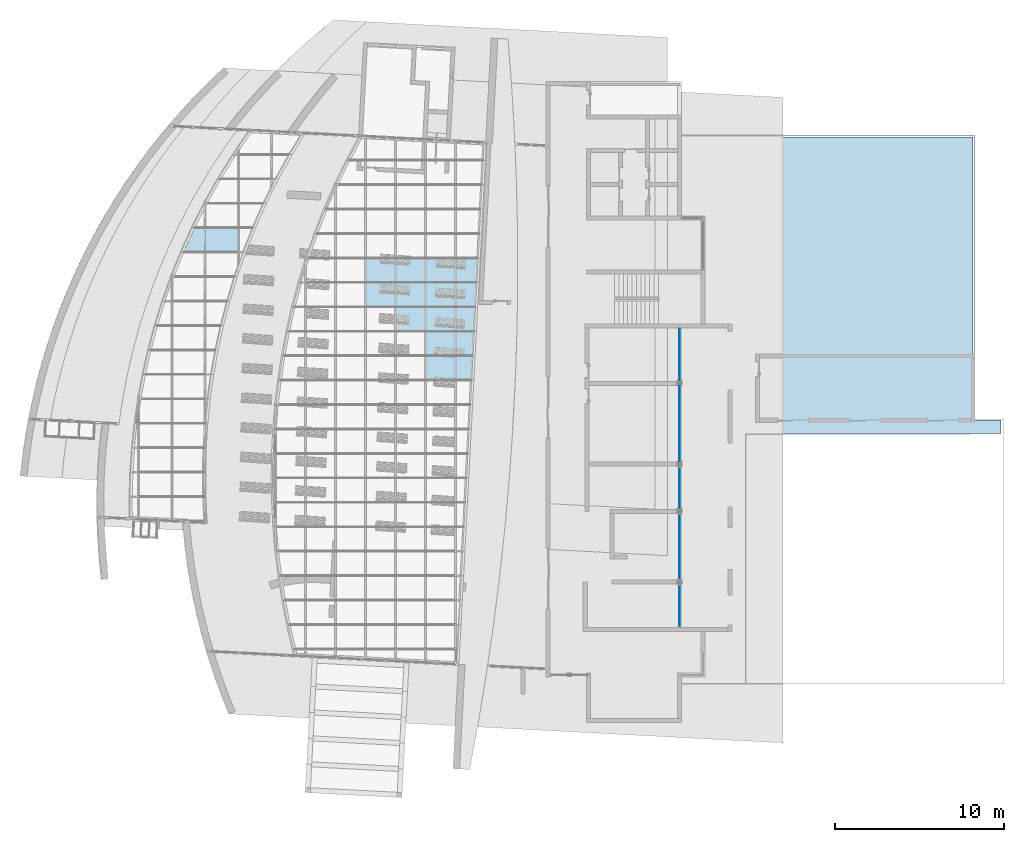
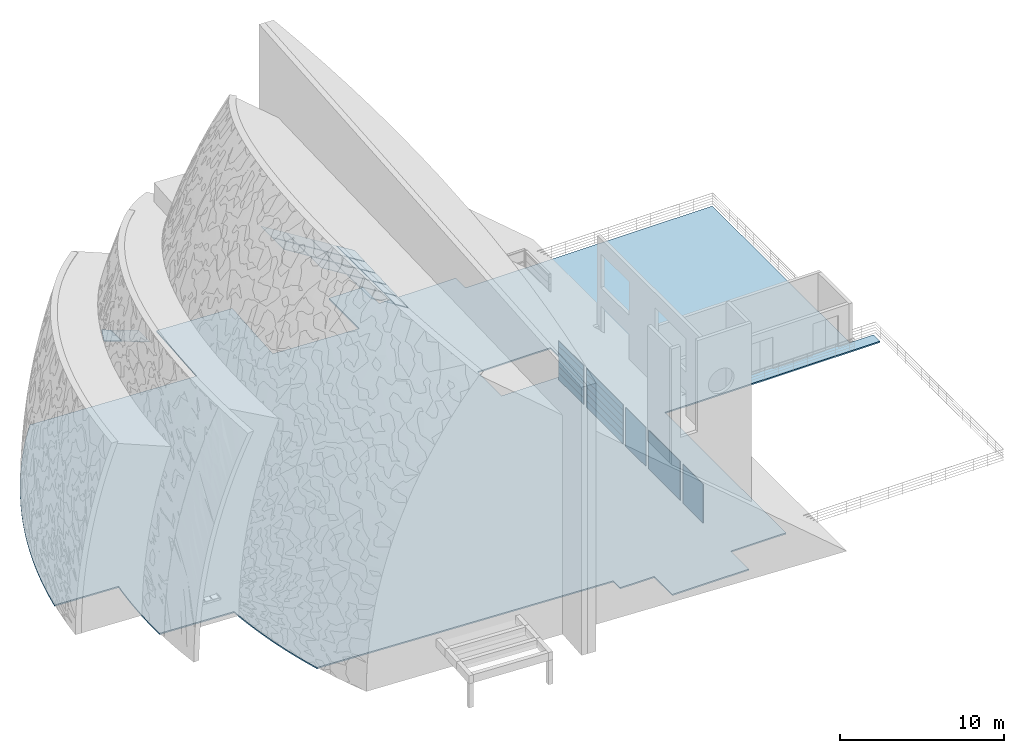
# One storey, part 41 of 82: 32 plates, 1 slab, 1 opening, 7 elements without a shape of their own.
"""IFC2X3 building model written with IfcOpenShell, lengths in millimetres."""

from ifc_helpers import new_model, entity, si_unit, converted_unit, derived_unit, direction, frame, frame_2d, origin, origin_2d_with_axis, place, context, subcontext, project, spatial, polyline, circle_curve, parameter, trimmed, segment, composite_curve, rectangle, outline, extrude, source, transform, mapped, material, layer, layer_set, layer_usage, type_object, type_shapes, element, aggregate, save


model = new_model("IFC2X3")

# Units and contexts
model_context = context("Model", 3, precision=0.01, world=origin(), true_north=direction((6.12303176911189e-17, 1.0)))
body_context = subcontext(model_context, "Body", "Model", "MODEL_VIEW")
ifc_project = project(units=[si_unit("LENGTHUNIT", "METRE", prefix="MILLI"), si_unit("AREAUNIT", "SQUARE_METRE"), si_unit("VOLUMEUNIT", "CUBIC_METRE"), converted_unit("PLANEANGLEUNIT", "DEGREE", entity("IfcRatioMeasure", 0.0174532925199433), si_unit("PLANEANGLEUNIT", "RADIAN"), dimensions=[0, 0, 0, 0, 0, 0, 0]), si_unit("MASSUNIT", "GRAM", prefix="KILO"), derived_unit("MASSDENSITYUNIT", [(si_unit("MASSUNIT", "GRAM", prefix="KILO"), 1), (si_unit("LENGTHUNIT", "METRE"), -3)]), si_unit("TIMEUNIT", "SECOND"), si_unit("FREQUENCYUNIT", "HERTZ"), si_unit("THERMODYNAMICTEMPERATUREUNIT", "DEGREE_CELSIUS"), derived_unit("THERMALTRANSMITTANCEUNIT", [(si_unit("MASSUNIT", "GRAM", prefix="KILO"), 1), (si_unit("THERMODYNAMICTEMPERATUREUNIT", "KELVIN"), -1), (si_unit("TIMEUNIT", "SECOND"), -3)]), derived_unit("VOLUMETRICFLOWRATEUNIT", [(si_unit("LENGTHUNIT", "METRE"), 3), (si_unit("TIMEUNIT", "SECOND"), -1)]), si_unit("ELECTRICCURRENTUNIT", "AMPERE"), si_unit("ELECTRICVOLTAGEUNIT", "VOLT"), si_unit("POWERUNIT", "WATT"), si_unit("FORCEUNIT", "NEWTON", prefix="KILO"), si_unit("ILLUMINANCEUNIT", "LUX"), si_unit("LUMINOUSFLUXUNIT", "LUMEN"), si_unit("LUMINOUSINTENSITYUNIT", "CANDELA"), derived_unit("USERDEFINED", [(si_unit("MASSUNIT", "GRAM", prefix="KILO"), -1), (si_unit("LENGTHUNIT", "METRE"), -2), (si_unit("TIMEUNIT", "SECOND"), 3), (si_unit("LUMINOUSFLUXUNIT", "LUMEN"), 1)]), derived_unit("LINEARVELOCITYUNIT", [(si_unit("LENGTHUNIT", "METRE"), 1), (si_unit("TIMEUNIT", "SECOND"), -1)]), si_unit("PRESSUREUNIT", "PASCAL"), derived_unit("USERDEFINED", [(si_unit("LENGTHUNIT", "METRE"), -2), (si_unit("MASSUNIT", "GRAM", prefix="KILO"), 1), (si_unit("TIMEUNIT", "SECOND"), -2)])], contexts=[model_context])

# Site, building, storey
site_placement = place(None, origin())
site = spatial("IfcSite", under=ifc_project, at=site_placement, Name="表面", CompositionType="ELEMENT")
building_placement = place(site_placement, origin())
building = spatial("IfcBuilding", under=site, at=building_placement, CompositionType="ELEMENT")
storey_placement = place(building_placement, origin())
storey = spatial("IfcBuildingStorey", under=building, at=storey_placement, Name="1F", CompositionType="ELEMENT", Elevation=0.0)

# Curtain wall, plates
curtain_wall_type_1 = type_object("IfcCurtainWallType", Name="幕墙系统:1450 x 2100mm", PredefinedType="NOTDEFINED")
curtain_wall_1_placement = place(storey_placement, origin())
curtain_wall_1 = element("IfcCurtainWall", 1, at=curtain_wall_1_placement, inside=storey, type_object=curtain_wall_type_1, Name="幕墙系统:1450 x 2100mm", ObjectType="幕墙系统:1450 x 2100mm")
ifc_material_1 = material(Name="<Unnamed>")
ifc_layer_1 = layer(ifc_material_1, 30.0)
ifc_layer_set_1 = layer_set([ifc_layer_1], Name="幕墙系统:1450 x 2100mm")
ifc_layer_usage_1 = layer_usage(ifc_layer_set_1, "AXIS3", "POSITIVE", 0.0)
plate_type_1 = type_object("IfcPlateType", Name="玻璃", PredefinedType="CURTAIN_PANEL", material=ifc_layer_set_1)
shared_shape_1 = source(origin(), body_context, "Body", "SweptSolid", [
    extrude(rectangle(XDim=30.0, YDim=1400.0, at=frame_2d((0.0, 3.97903932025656e-13), x_axis=(1.0, 0.0))), frame((0.0, 0.0, 0.0), z_axis=(0.0, 0.0, 1.0), x_axis=(0.0, 1.0, 0.0)), (0.0, 0.0, 1.0), 2050.0),
])
type_shapes(plate_type_1, [shared_shape_1])
plate_1_placement = place(curtain_wall_1_placement, frame((-19940.3008154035, -5413.90315351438, 12156.2797786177), z_axis=(-0.848048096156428, 0.0, 0.529919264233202), x_axis=(0.0, -1.0, 0.0)))
plate_1 = element("IfcPlate", 2, at=plate_1_placement, type_object=plate_type_1, material=ifc_layer_usage_1, Name="系统嵌板:玻璃", ObjectType="玻璃", context=body_context, shape_type="MappedRepresentation", body=[
    mapped(shared_shape_1, transform((0.0, 0.0, 0.0), scale=1.0)),
])
ifc_layer_usage_2 = layer_usage(ifc_layer_set_1, "AXIS3", "POSITIVE", 0.0)
plate_2_placement = place(curtain_wall_1_placement, frame((-19940.3008154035, -6863.90315351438, 12156.2797786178), z_axis=(-0.848048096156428, 0.0, 0.529919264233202), x_axis=(0.0, -1.0, 0.0)))
plate_2 = element("IfcPlate", 3, at=plate_2_placement, type_object=plate_type_1, material=ifc_layer_usage_2, Name="系统嵌板:玻璃", ObjectType="玻璃", context=body_context, shape_type="MappedRepresentation", body=[
    mapped(shared_shape_1, transform((0.0, 0.0, 0.0), scale=1.0)),
])
ifc_layer_usage_3 = layer_usage(ifc_layer_set_1, "AXIS3", "POSITIVE", 0.0)
plate_3_placement = place(curtain_wall_1_placement, frame((-19940.3008154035, -8313.90315351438, 12156.2797786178), z_axis=(-0.848048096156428, 0.0, 0.529919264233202), x_axis=(0.0, -1.0, 0.0)))
plate_3 = element("IfcPlate", 4, at=plate_3_placement, type_object=plate_type_1, material=ifc_layer_usage_3, Name="系统嵌板:玻璃", ObjectType="玻璃", context=body_context, shape_type="MappedRepresentation", body=[
    mapped(shared_shape_1, transform((0.0, 0.0, 0.0), scale=1.0)),
])
ifc_layer_usage_4 = layer_usage(ifc_layer_set_1, "AXIS3", "POSITIVE", 0.0)
plate_4_placement = place(curtain_wall_1_placement, frame((-19940.3008154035, -9763.90315351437, 12156.2797786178), z_axis=(-0.848048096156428, 0.0, 0.529919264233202), x_axis=(0.0, -1.0, 0.0)))
plate_4 = element("IfcPlate", 5, at=plate_4_placement, type_object=plate_type_1, material=ifc_layer_usage_4, Name="系统嵌板:玻璃", ObjectType="玻璃", context=body_context, shape_type="MappedRepresentation", body=[
    mapped(shared_shape_1, transform((0.0, 0.0, 0.0), scale=1.0)),
])
ifc_layer_usage_5 = layer_usage(ifc_layer_set_1, "AXIS3", "POSITIVE", 0.0)
plate_5_placement = place(curtain_wall_1_placement, frame((-19940.3008154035, -11213.9031535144, 12156.2797786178), z_axis=(-0.848048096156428, 0.0, 0.529919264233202), x_axis=(0.0, -1.0, 0.0)))
plate_5 = element("IfcPlate", 6, at=plate_5_placement, type_object=plate_type_1, material=ifc_layer_usage_5, Name="系统嵌板:玻璃", ObjectType="玻璃", context=body_context, shape_type="MappedRepresentation", body=[
    mapped(shared_shape_1, transform((0.0, 0.0, 0.0), scale=1.0)),
])
ifc_layer_usage_6 = layer_usage(ifc_layer_set_1, "AXIS3", "POSITIVE", 0.0)
plate_6_placement = place(curtain_wall_1_placement, frame((-21721.201817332, -5413.90315351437, 13269.1102335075), z_axis=(-0.848048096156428, 0.0, 0.529919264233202), x_axis=(0.0, -1.0, 0.0)))
plate_6 = element("IfcPlate", 7, at=plate_6_placement, type_object=plate_type_1, material=ifc_layer_usage_6, Name="系统嵌板:玻璃", ObjectType="玻璃", context=body_context, shape_type="MappedRepresentation", body=[
    mapped(shared_shape_1, transform((0.0, 0.0, 0.0), scale=1.0)),
])
ifc_layer_usage_7 = layer_usage(ifc_layer_set_1, "AXIS3", "POSITIVE", 0.0)
plate_7_placement = place(curtain_wall_1_placement, frame((-21721.201817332, -6863.90315351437, 13269.1102335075), z_axis=(-0.848048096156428, 0.0, 0.529919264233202), x_axis=(0.0, -1.0, 0.0)))
plate_7 = element("IfcPlate", 8, at=plate_7_placement, type_object=plate_type_1, material=ifc_layer_usage_7, Name="系统嵌板:玻璃", ObjectType="玻璃", context=body_context, shape_type="MappedRepresentation", body=[
    mapped(shared_shape_1, transform((0.0, 0.0, 0.0), scale=1.0)),
])
ifc_layer_usage_8 = layer_usage(ifc_layer_set_1, "AXIS3", "POSITIVE", 0.0)
plate_8_placement = place(curtain_wall_1_placement, frame((-21721.201817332, -8313.90315351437, 13269.1102335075), z_axis=(-0.848048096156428, 0.0, 0.529919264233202), x_axis=(0.0, -1.0, 0.0)))
plate_8 = element("IfcPlate", 9, at=plate_8_placement, type_object=plate_type_1, material=ifc_layer_usage_8, Name="系统嵌板:玻璃", ObjectType="玻璃", context=body_context, shape_type="MappedRepresentation", body=[
    mapped(shared_shape_1, transform((0.0, 0.0, 0.0), scale=1.0)),
])
ifc_layer_usage_9 = layer_usage(ifc_layer_set_1, "AXIS3", "POSITIVE", 0.0)
plate_9_placement = place(curtain_wall_1_placement, frame((-23502.1028192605, -5413.90315351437, 14381.9406883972), z_axis=(-0.848048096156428, 0.0, 0.529919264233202), x_axis=(0.0, -1.0, 0.0)))
plate_9 = element("IfcPlate", 10, at=plate_9_placement, type_object=plate_type_1, material=ifc_layer_usage_9, Name="系统嵌板:玻璃", ObjectType="玻璃", context=body_context, shape_type="MappedRepresentation", body=[
    mapped(shared_shape_1, transform((0.0, 0.0, 0.0), scale=1.0)),
])
ifc_layer_usage_10 = layer_usage(ifc_layer_set_1, "AXIS3", "POSITIVE", 0.0)
plate_10_placement = place(curtain_wall_1_placement, frame((-23502.1028192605, -6863.90315351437, 14381.9406883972), z_axis=(-0.848048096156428, 0.0, 0.529919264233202), x_axis=(0.0, -1.0, 0.0)))
plate_10 = element("IfcPlate", 11, at=plate_10_placement, type_object=plate_type_1, material=ifc_layer_usage_10, Name="系统嵌板:玻璃", ObjectType="玻璃", context=body_context, shape_type="MappedRepresentation", body=[
    mapped(shared_shape_1, transform((0.0, 0.0, 0.0), scale=1.0)),
])

# Curtain wall, plate
curtain_wall_2_placement = place(storey_placement, origin())
curtain_wall_2 = element("IfcCurtainWall", 12, at=curtain_wall_2_placement, inside=storey, type_object=curtain_wall_type_1, Name="幕墙系统:1450 x 2100mm", ObjectType="幕墙系统:1450 x 2100mm")
ifc_layer_usage_11 = layer_usage(ifc_layer_set_1, "AXIS3", "POSITIVE", 0.0)
plate_11_placement = place(curtain_wall_2_placement, frame((-32833.4087283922, -3621.8767198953, 9270.65173654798), z_axis=(-0.93969262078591, 0.0, 0.342020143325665), x_axis=(0.0, -1.0, 0.0)))
plate_11 = element("IfcPlate", 13, at=plate_11_placement, type_object=plate_type_1, material=ifc_layer_usage_11, Name="系统嵌板:玻璃", ObjectType="玻璃", context=body_context, shape_type="MappedRepresentation", body=[
    mapped(shared_shape_1, transform((0.0, 0.0, 0.0), scale=1.0)),
])

# Curtain wall, plates
curtain_wall_type_2 = type_object("IfcCurtainWallType", Name="幕墙:幕墙 1", PredefinedType="NOTDEFINED")
curtain_wall_3_placement = place(storey_placement, origin())
curtain_wall_3 = element("IfcCurtainWall", 14, at=curtain_wall_3_placement, inside=storey, type_object=curtain_wall_type_2, Name="幕墙:幕墙 1", ObjectType="幕墙:幕墙 1")
ifc_layer_usage_12 = layer_usage(ifc_layer_set_1, "AXIS3", "POSITIVE", 0.0)
plate_type_2 = type_object("IfcPlateType", Name="玻璃", PredefinedType="CURTAIN_PANEL", material=ifc_layer_set_1)
shared_shape_2 = source(origin(), body_context, "Body", "SweptSolid", [
    extrude(rectangle(XDim=30.0, YDim=3069.02251367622, at=origin_2d_with_axis()), frame((0.0, 0.0, 0.0), z_axis=(0.0, 0.0, 1.0), x_axis=(0.0, 1.0, 0.0)), (0.0, 0.0, 1.0), 500.0),
])
type_shapes(plate_type_2, [shared_shape_2])
plate_12_placement = place(curtain_wall_3_placement, frame((-6630.24991264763, -10412.3571698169, 50.0), z_axis=(0.0, 0.0, 1.0), x_axis=(0.0, -1.0, 0.0)))
plate_12 = element("IfcPlate", 15, at=plate_12_placement, type_object=plate_type_2, material=ifc_layer_usage_12, Name="系统嵌板:玻璃", ObjectType="玻璃", context=body_context, shape_type="MappedRepresentation", body=[
    mapped(shared_shape_2, transform((0.0, 0.0, 0.0), scale=1.0)),
])
ifc_layer_usage_13 = layer_usage(ifc_layer_set_1, "AXIS3", "POSITIVE", 0.0)
plate_13_placement = place(curtain_wall_3_placement, frame((-6630.24991264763, -10412.3571698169, 550.0), z_axis=(0.0, 0.0, 1.0), x_axis=(0.0, -1.0, 0.0)))
plate_13 = element("IfcPlate", 16, at=plate_13_placement, type_object=plate_type_2, material=ifc_layer_usage_13, Name="系统嵌板:玻璃", ObjectType="玻璃", context=body_context, shape_type="MappedRepresentation", body=[
    mapped(shared_shape_2, transform((0.0, 0.0, 0.0), scale=1.0)),
])
ifc_layer_usage_14 = layer_usage(ifc_layer_set_1, "AXIS3", "POSITIVE", 0.0)
plate_14_placement = place(curtain_wall_3_placement, frame((-6630.24991264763, -10412.3571698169, 1050.0), z_axis=(0.0, 0.0, 1.0), x_axis=(0.0, -1.0, 0.0)))
plate_14 = element("IfcPlate", 17, at=plate_14_placement, type_object=plate_type_2, material=ifc_layer_usage_14, Name="系统嵌板:玻璃", ObjectType="玻璃", context=body_context, shape_type="MappedRepresentation", body=[
    mapped(shared_shape_2, transform((0.0, 0.0, 0.0), scale=1.0)),
])
ifc_layer_usage_15 = layer_usage(ifc_layer_set_1, "AXIS3", "POSITIVE", 0.0)
plate_15_placement = place(curtain_wall_3_placement, frame((-6630.24991264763, -10412.3571698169, 1550.0), z_axis=(0.0, 0.0, 1.0), x_axis=(0.0, -1.0, 0.0)))
plate_15 = element("IfcPlate", 18, at=plate_15_placement, type_object=plate_type_2, material=ifc_layer_usage_15, Name="系统嵌板:玻璃", ObjectType="玻璃", context=body_context, shape_type="MappedRepresentation", body=[
    mapped(shared_shape_2, transform((0.0, 0.0, 0.0), scale=1.0)),
])
ifc_layer_usage_16 = layer_usage(ifc_layer_set_1, "AXIS3", "POSITIVE", 0.0)
plate_16_placement = place(curtain_wall_3_placement, frame((-6630.24991264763, -10412.3571698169, 2050.0), z_axis=(0.0, 0.0, 1.0), x_axis=(0.0, -1.0, 0.0)))
plate_16 = element("IfcPlate", 19, at=plate_16_placement, type_object=plate_type_2, material=ifc_layer_usage_16, Name="系统嵌板:玻璃", ObjectType="玻璃", context=body_context, shape_type="MappedRepresentation", body=[
    mapped(shared_shape_2, transform((0.0, 0.0, 0.0), scale=1.0)),
])
ifc_layer_usage_17 = layer_usage(ifc_layer_set_1, "AXIS3", "POSITIVE", 0.0)
plate_type_3 = type_object("IfcPlateType", Name="玻璃", PredefinedType="CURTAIN_PANEL", material=ifc_layer_set_1)
shared_shape_3 = source(origin(), body_context, "Body", "SweptSolid", [
    extrude(rectangle(XDim=30.0, YDim=3069.02251367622, at=origin_2d_with_axis()), frame((0.0, 0.0, 0.0), z_axis=(0.0, 0.0, 1.0), x_axis=(0.0, 1.0, 0.0)), (0.0, 0.0, 1.0), 400.000000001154),
])
type_shapes(plate_type_3, [shared_shape_3])
plate_17_placement = place(curtain_wall_3_placement, frame((-6630.24991264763, -10412.3571698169, 2550.0), z_axis=(0.0, 0.0, 1.0), x_axis=(0.0, -1.0, 0.0)))
plate_17 = element("IfcPlate", 20, at=plate_17_placement, type_object=plate_type_3, material=ifc_layer_usage_17, Name="系统嵌板:玻璃", ObjectType="玻璃", context=body_context, shape_type="MappedRepresentation", body=[
    mapped(shared_shape_3, transform((0.0, 0.0, 0.0), scale=1.0)),
])
aggregate(curtain_wall_3, [plate_12, plate_13, plate_14, plate_15, plate_16, plate_17])

curtain_wall_4_placement = place(storey_placement, origin())
curtain_wall_4 = element("IfcCurtainWall", 21, at=curtain_wall_4_placement, inside=storey, type_object=curtain_wall_type_2, Name="幕墙:幕墙 1", ObjectType="幕墙:幕墙 1")
ifc_layer_usage_18 = layer_usage(ifc_layer_set_1, "AXIS3", "POSITIVE", 0.0)
plate_type_4 = type_object("IfcPlateType", Name="玻璃", PredefinedType="CURTAIN_PANEL", material=ifc_layer_set_1)
shared_shape_4 = source(origin(), body_context, "Body", "SweptSolid", [
    extrude(rectangle(XDim=30.0, YDim=4460.0, at=origin_2d_with_axis()), frame((0.0, 0.0, 0.0), z_axis=(0.0, 0.0, 1.0), x_axis=(0.0, 1.0, 0.0)), (0.0, 0.0, 1.0), 500.0),
])
type_shapes(plate_type_4, [shared_shape_4])
plate_18_placement = place(curtain_wall_4_placement, frame((-6630.24991264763, -14516.868426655, 50.0), z_axis=(0.0, 0.0, 1.0), x_axis=(0.0, -1.0, 0.0)))
plate_18 = element("IfcPlate", 22, at=plate_18_placement, type_object=plate_type_4, material=ifc_layer_usage_18, Name="系统嵌板:玻璃", ObjectType="玻璃", context=body_context, shape_type="MappedRepresentation", body=[
    mapped(shared_shape_4, transform((0.0, 0.0, 0.0), scale=1.0)),
])
ifc_layer_usage_19 = layer_usage(ifc_layer_set_1, "AXIS3", "POSITIVE", 0.0)
plate_19_placement = place(curtain_wall_4_placement, frame((-6630.24991264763, -14516.868426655, 550.0), z_axis=(0.0, 0.0, 1.0), x_axis=(0.0, -1.0, 0.0)))
plate_19 = element("IfcPlate", 23, at=plate_19_placement, type_object=plate_type_4, material=ifc_layer_usage_19, Name="系统嵌板:玻璃", ObjectType="玻璃", context=body_context, shape_type="MappedRepresentation", body=[
    mapped(shared_shape_4, transform((0.0, 0.0, 0.0), scale=1.0)),
])
ifc_layer_usage_20 = layer_usage(ifc_layer_set_1, "AXIS3", "POSITIVE", 0.0)
plate_20_placement = place(curtain_wall_4_placement, frame((-6630.24991264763, -14516.868426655, 1050.0), z_axis=(0.0, 0.0, 1.0), x_axis=(0.0, -1.0, 0.0)))
plate_20 = element("IfcPlate", 24, at=plate_20_placement, type_object=plate_type_4, material=ifc_layer_usage_20, Name="系统嵌板:玻璃", ObjectType="玻璃", context=body_context, shape_type="MappedRepresentation", body=[
    mapped(shared_shape_4, transform((0.0, 0.0, 0.0), scale=1.0)),
])
ifc_layer_usage_21 = layer_usage(ifc_layer_set_1, "AXIS3", "POSITIVE", 0.0)
plate_21_placement = place(curtain_wall_4_placement, frame((-6630.24991264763, -14516.868426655, 1550.0), z_axis=(0.0, 0.0, 1.0), x_axis=(0.0, -1.0, 0.0)))
plate_21 = element("IfcPlate", 25, at=plate_21_placement, type_object=plate_type_4, material=ifc_layer_usage_21, Name="系统嵌板:玻璃", ObjectType="玻璃", context=body_context, shape_type="MappedRepresentation", body=[
    mapped(shared_shape_4, transform((0.0, 0.0, 0.0), scale=1.0)),
])
ifc_layer_usage_22 = layer_usage(ifc_layer_set_1, "AXIS3", "POSITIVE", 0.0)
plate_22_placement = place(curtain_wall_4_placement, frame((-6630.24991264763, -14516.868426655, 2050.0), z_axis=(0.0, 0.0, 1.0), x_axis=(0.0, -1.0, 0.0)))
plate_22 = element("IfcPlate", 26, at=plate_22_placement, type_object=plate_type_4, material=ifc_layer_usage_22, Name="系统嵌板:玻璃", ObjectType="玻璃", context=body_context, shape_type="MappedRepresentation", body=[
    mapped(shared_shape_4, transform((0.0, 0.0, 0.0), scale=1.0)),
])
ifc_layer_usage_23 = layer_usage(ifc_layer_set_1, "AXIS3", "POSITIVE", 0.0)
plate_type_5 = type_object("IfcPlateType", Name="玻璃", PredefinedType="CURTAIN_PANEL", material=ifc_layer_set_1)
shared_shape_5 = source(origin(), body_context, "Body", "SweptSolid", [
    extrude(rectangle(XDim=30.0, YDim=4460.0, at=origin_2d_with_axis()), frame((0.0, 0.0, 0.0), z_axis=(0.0, 0.0, 1.0), x_axis=(0.0, 1.0, 0.0)), (0.0, 0.0, 1.0), 400.000000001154),
])
type_shapes(plate_type_5, [shared_shape_5])
plate_23_placement = place(curtain_wall_4_placement, frame((-6630.24991264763, -14516.868426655, 2550.0), z_axis=(0.0, 0.0, 1.0), x_axis=(0.0, -1.0, 0.0)))
plate_23 = element("IfcPlate", 27, at=plate_23_placement, type_object=plate_type_5, material=ifc_layer_usage_23, Name="系统嵌板:玻璃", ObjectType="玻璃", context=body_context, shape_type="MappedRepresentation", body=[
    mapped(shared_shape_5, transform((0.0, 0.0, 0.0), scale=1.0)),
])
aggregate(curtain_wall_4, [plate_18, plate_19, plate_20, plate_21, plate_22, plate_23])

# Curtain wall, plate
curtain_wall_type_3 = type_object("IfcCurtainWallType", Name="幕墙:幕墙 2", PredefinedType="NOTDEFINED")
curtain_wall_5_placement = place(storey_placement, origin())
curtain_wall_5 = element("IfcCurtainWall", 28, at=curtain_wall_5_placement, inside=storey, type_object=curtain_wall_type_3, Name="幕墙:幕墙 2", ObjectType="幕墙:幕墙 2")
ifc_layer_usage_24 = layer_usage(ifc_layer_set_1, "AXIS3", "POSITIVE", 0.0)
plate_type_6 = type_object("IfcPlateType", Name="玻璃", PredefinedType="CURTAIN_PANEL", material=ifc_layer_set_1)
shared_shape_6 = source(origin(), body_context, "Body", "SweptSolid", [
    extrude(rectangle(XDim=30.0, YDim=2459.99999999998, at=origin_2d_with_axis()), frame((0.0, 0.0, 0.0), z_axis=(0.0, 0.0, 1.0), x_axis=(0.0, 1.0, 0.0)), (0.0, 0.0, 1.0), 2900.00000000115),
])
type_shapes(plate_type_6, [shared_shape_6])
plate_24_placement = place(curtain_wall_5_placement, frame((-6630.24991264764, -18316.868426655, 50.0), z_axis=(0.0, 0.0, 1.0), x_axis=(0.0, -1.0, 0.0)))
plate_24 = element("IfcPlate", 29, at=plate_24_placement, type_object=plate_type_6, material=ifc_layer_usage_24, Name="系统嵌板:玻璃", ObjectType="玻璃", context=body_context, shape_type="MappedRepresentation", body=[
    mapped(shared_shape_6, transform((0.0, 0.0, 0.0), scale=1.0)),
])
aggregate(curtain_wall_5, [plate_24])

curtain_wall_6_placement = place(storey_placement, origin())
curtain_wall_6 = element("IfcCurtainWall", 30, at=curtain_wall_6_placement, inside=storey, type_object=curtain_wall_type_3, Name="幕墙:幕墙 2", ObjectType="幕墙:幕墙 2")
ifc_layer_usage_25 = layer_usage(ifc_layer_set_1, "AXIS3", "POSITIVE", 0.0)
plate_25_placement = place(curtain_wall_6_placement, frame((-6630.24991264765, -25316.868426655, 50.0), z_axis=(0.0, 0.0, 1.0), x_axis=(0.0, -1.0, 0.0)))
plate_25 = element("IfcPlate", 31, at=plate_25_placement, type_object=plate_type_6, material=ifc_layer_usage_25, Name="系统嵌板:玻璃", ObjectType="玻璃", context=body_context, shape_type="MappedRepresentation", body=[
    mapped(shared_shape_6, transform((0.0, 0.0, 0.0), scale=1.0)),
])
aggregate(curtain_wall_6, [plate_25])

curtain_wall_7_placement = place(storey_placement, origin())
curtain_wall_7 = element("IfcCurtainWall", 32, at=curtain_wall_7_placement, inside=storey, type_object=curtain_wall_type_3, Name="幕墙:幕墙 2", ObjectType="幕墙:幕墙 2")
ifc_layer_usage_26 = layer_usage(ifc_layer_set_1, "AXIS3", "POSITIVE", 0.0)
plate_type_7 = type_object("IfcPlateType", Name="玻璃", PredefinedType="CURTAIN_PANEL", material=ifc_layer_set_1)
shared_shape_7 = source(origin(), body_context, "Body", "SweptSolid", [
    extrude(rectangle(XDim=30.0, YDim=3860.00000000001, at=origin_2d_with_axis()), frame((0.0, 0.0, 0.0), z_axis=(0.0, 0.0, 1.0), x_axis=(0.0, 1.0, 0.0)), (0.0, 0.0, 1.0), 2900.00000000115),
])
type_shapes(plate_type_7, [shared_shape_7])
plate_26_placement = place(curtain_wall_7_placement, frame((-6630.24991264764, -21816.868426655, 50.0), z_axis=(0.0, 0.0, 1.0), x_axis=(0.0, -1.0, 0.0)))
plate_26 = element("IfcPlate", 33, at=plate_26_placement, type_object=plate_type_7, material=ifc_layer_usage_26, Name="系统嵌板:玻璃", ObjectType="玻璃", context=body_context, shape_type="MappedRepresentation", body=[
    mapped(shared_shape_7, transform((0.0, 0.0, 0.0), scale=1.0)),
])
aggregate(curtain_wall_7, [plate_26])

# Plate
ifc_layer_usage_27 = layer_usage(ifc_layer_set_1, "AXIS3", "POSITIVE", 0.0)
plate_type_8 = type_object("IfcPlateType", Name="玻璃", PredefinedType="CURTAIN_PANEL", material=ifc_layer_set_1)
shared_shape_8 = source(origin(), body_context, "Body", "SweptSolid", [
    extrude(outline(polyline([(-771.280135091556, -700.0), (728.021450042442, -700.0), (728.021450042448, 700.0), (-684.762764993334, 700.0), (-771.280135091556, -700.0)])), frame((0.0, -15.0, 771.280135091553), z_axis=(0.0, 1.0, 0.0), x_axis=(0.0, 0.0, 1.0)), (0.0, 0.0, 1.0), 30.0),
])
type_shapes(plate_type_8, [shared_shape_8])
plate_27_placement = place(curtain_wall_1_placement, frame((-18626.4185557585, -5413.90315351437, 11335.2750225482), z_axis=(-0.848048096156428, 0.0, 0.529919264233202), x_axis=(0.0, -1.0, 0.0)))
plate_27 = element("IfcPlate", 34, at=plate_27_placement, type_object=plate_type_8, material=ifc_layer_usage_27, Name="系统嵌板:玻璃", ObjectType="玻璃", context=body_context, shape_type="MappedRepresentation", body=[
    mapped(shared_shape_8, transform((0.0, 0.0, 0.0), scale=1.0)),
])

ifc_layer_usage_28 = layer_usage(ifc_layer_set_1, "AXIS3", "POSITIVE", 0.0)
plate_type_9 = type_object("IfcPlateType", Name="玻璃", PredefinedType="CURTAIN_PANEL", material=ifc_layer_set_1)
shared_shape_9 = source(origin(), body_context, "Body", "SweptSolid", [
    extrude(outline(polyline([(-726.476497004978, -700.0), (683.217811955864, -700.0), (683.217811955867, 700.0), (-639.959126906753, 700.0), (-726.476497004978, -700.0)])), frame((0.0, -15.0, 726.476497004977), z_axis=(0.0, 1.0, 0.0), x_axis=(0.0, 0.0, 1.0)), (0.0, 0.0, 1.0), 30.0),
])
type_shapes(plate_type_9, [shared_shape_9])
plate_28_placement = place(curtain_wall_1_placement, frame((-18702.4098357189, -6863.90315351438, 11382.7596444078), z_axis=(-0.848048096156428, 0.0, 0.529919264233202), x_axis=(0.0, -1.0, 0.0)))
plate_28 = element("IfcPlate", 35, at=plate_28_placement, type_object=plate_type_9, material=ifc_layer_usage_28, Name="系统嵌板:玻璃", ObjectType="玻璃", context=body_context, shape_type="MappedRepresentation", body=[
    mapped(shared_shape_9, transform((0.0, 0.0, 0.0), scale=1.0)),
])

ifc_layer_usage_29 = layer_usage(ifc_layer_set_1, "AXIS3", "POSITIVE", 0.0)
plate_type_10 = type_object("IfcPlateType", Name="玻璃", PredefinedType="CURTAIN_PANEL", material=ifc_layer_set_1)
shared_shape_10 = source(origin(), body_context, "Body", "SweptSolid", [
    extrude(outline(polyline([(-681.672858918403, -700.0), (638.414173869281, -700.0), (638.414173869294, 700.0), (-595.155488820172, 700.0), (-681.672858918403, -700.0)])), frame((0.0, -15.0, 681.672858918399), z_axis=(0.0, 1.0, 0.0), x_axis=(0.0, 0.0, 1.0)), (0.0, 0.0, 1.0), 30.0),
])
type_shapes(plate_type_10, [shared_shape_10])
plate_29_placement = place(curtain_wall_1_placement, frame((-18778.4011156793, -8313.90315351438, 11430.2442662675), z_axis=(-0.848048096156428, 0.0, 0.529919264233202), x_axis=(0.0, -1.0, 0.0)))
plate_29 = element("IfcPlate", 36, at=plate_29_placement, type_object=plate_type_10, material=ifc_layer_usage_29, Name="系统嵌板:玻璃", ObjectType="玻璃", context=body_context, shape_type="MappedRepresentation", body=[
    mapped(shared_shape_10, transform((0.0, 0.0, 0.0), scale=1.0)),
])

ifc_layer_usage_30 = layer_usage(ifc_layer_set_1, "AXIS3", "POSITIVE", 0.0)
plate_type_11 = type_object("IfcPlateType", Name="玻璃", PredefinedType="CURTAIN_PANEL", material=ifc_layer_set_1)
shared_shape_11 = source(origin(), body_context, "Body", "SweptSolid", [
    extrude(outline(polyline([(-636.869220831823, -700.0), (593.61053578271, -700.0), (593.610535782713, 700.0), (-550.351850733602, 700.0), (-636.869220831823, -700.0)])), frame((0.0, -15.0, 636.869220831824), z_axis=(0.0, 1.0, 0.0), x_axis=(0.0, 0.0, 1.0)), (0.0, 0.0, 1.0), 30.0),
])
type_shapes(plate_type_11, [shared_shape_11])
plate_30_placement = place(curtain_wall_1_placement, frame((-18854.3923956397, -9763.90315351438, 11477.7288881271), z_axis=(-0.848048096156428, 0.0, 0.529919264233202), x_axis=(0.0, -1.0, 0.0)))
plate_30 = element("IfcPlate", 37, at=plate_30_placement, type_object=plate_type_11, material=ifc_layer_usage_30, Name="系统嵌板:玻璃", ObjectType="玻璃", context=body_context, shape_type="MappedRepresentation", body=[
    mapped(shared_shape_11, transform((0.0, 0.0, 0.0), scale=1.0)),
])

ifc_layer_usage_31 = layer_usage(ifc_layer_set_1, "AXIS3", "POSITIVE", 0.0)
plate_type_12 = type_object("IfcPlateType", Name="玻璃", PredefinedType="CURTAIN_PANEL", material=ifc_layer_set_1)
shared_shape_12 = source(origin(), body_context, "Body", "SweptSolid", [
    extrude(outline(polyline([(-592.065582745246, -700.0), (548.806897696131, -700.0), (548.806897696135, 700.0), (-505.54821264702, 700.0), (-592.065582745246, -700.0)])), frame((0.0, -15.0, 592.065582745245), z_axis=(0.0, 1.0, 0.0), x_axis=(0.0, 0.0, 1.0)), (0.0, 0.0, 1.0), 30.0),
])
type_shapes(plate_type_12, [shared_shape_12])
plate_31_placement = place(curtain_wall_1_placement, frame((-18930.3836756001, -11213.9031535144, 11525.2135099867), z_axis=(-0.848048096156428, 0.0, 0.529919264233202), x_axis=(0.0, -1.0, 0.0)))
plate_31 = element("IfcPlate", 38, at=plate_31_placement, type_object=plate_type_12, material=ifc_layer_usage_31, Name="系统嵌板:玻璃", ObjectType="玻璃", context=body_context, shape_type="MappedRepresentation", body=[
    mapped(shared_shape_12, transform((0.0, 0.0, 0.0), scale=1.0)),
])

aggregate(curtain_wall_1, [plate_27, plate_28, plate_29, plate_30, plate_31, plate_1, plate_2, plate_3, plate_4, plate_5, plate_6, plate_7, plate_8, plate_9, plate_10])

ifc_layer_usage_32 = layer_usage(ifc_layer_set_1, "AXIS3", "POSITIVE", 0.0)
plate_type_13 = type_object("IfcPlateType", Name="玻璃", PredefinedType="CURTAIN_PANEL", material=ifc_layer_set_1)
shared_shape_13 = source(origin(), body_context, "Body", "SweptSolid", [
    extrude(outline(polyline([(-505.365037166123, -700.0), (170.110133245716, -700.0), (840.619941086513, 700.0), (-505.365037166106, 700.0), (-505.365037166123, -700.0)])), frame((0.0, -15.0, 505.365037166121), z_axis=(0.0, 1.0, 0.0), x_axis=(0.0, 0.0, 1.0)), (0.0, 0.0, 1.0), 30.0),
])
type_shapes(plate_type_13, [shared_shape_13])
plate_32_placement = place(curtain_wall_2_placement, frame((-34806.7632320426, -3621.8767198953, 9988.89403753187), z_axis=(-0.93969262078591, 0.0, 0.342020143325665), x_axis=(0.0, -1.0, 0.0)))
plate_32 = element("IfcPlate", 39, at=plate_32_placement, type_object=plate_type_13, material=ifc_layer_usage_32, Name="系统嵌板:玻璃", ObjectType="玻璃", context=body_context, shape_type="MappedRepresentation", body=[
    mapped(shared_shape_13, transform((0.0, 0.0, 0.0), scale=1.0)),
])

aggregate(curtain_wall_2, [plate_11, plate_32])

# Slab, opening
ifc_material_2 = material(Name="默认楼板")
ifc_layer_2 = layer(ifc_material_2, 100.0)
ifc_layer_set_2 = layer_set([ifc_layer_2], Name="楼板:常规 - 100mm")
ifc_layer_usage_33 = layer_usage(ifc_layer_set_2, "AXIS3", "POSITIVE", 0.0)
slab_placement = place(storey_placement, origin())
slab = element("IfcSlab", 40, at=slab_placement, inside=storey, material=ifc_layer_usage_33, Name="楼板:常规 - 100mm", ObjectType="楼板:常规 - 100mm", PredefinedType="FLOOR", context=body_context, shape_type="SweptSolid", body=[
    extrude(outline(composite_curve([segment(trimmed(circle_curve(frame_2d((-8463.90893471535, -9280.11879208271), x_axis=(-1.0, 0.0)), 38000.0), [parameter(190.792736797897)], [parameter(220.157709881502)], True, "PARAMETER"), True, "CONTINUOUS"), segment(polyline([(20578.4359581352, 15225.843811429), (9143.85720693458, 14626.5829320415)]), True, "CONTINUOUS"), segment(polyline([(9143.85720693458, 14626.5829320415), (8859.67296453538, 20049.1413057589)]), True, "CONTINUOUS"), segment(polyline([(8859.67296453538, 20049.1413057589), (3656.81308846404, 19776.4709737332)]), True, "CONTINUOUS"), segment(polyline([(3656.81308846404, 19776.4709737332), (3940.99733086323, 14353.9126000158)]), True, "CONTINUOUS"), segment(polyline([(3940.99733086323, 14353.9126000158), (-1983.90893471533, 14043.4014201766)]), True, "CONTINUOUS"), segment(polyline([(-1983.90893471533, 14043.4014201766), (-1983.90893471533, 17750.8586942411)]), True, "CONTINUOUS"), segment(polyline([(-1983.90893471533, 17750.8586942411), (-4383.90893471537, 17750.8586942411)]), True, "CONTINUOUS"), segment(polyline([(-4383.90893471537, 17750.8586942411), (-4383.90893471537, 15750.8586942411)]), True, "CONTINUOUS"), segment(polyline([(-4383.90893471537, 15750.8586942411), (-9783.90893471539, 15750.8586942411)]), True, "CONTINUOUS"), segment(polyline([(-9783.90893471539, 15750.8586942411), (-9783.90893471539, 14559.8812079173)]), True, "CONTINUOUS"), segment(polyline([(-9783.90893471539, 14559.8812079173), (-27183.9089347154, 14559.8812079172)]), True, "CONTINUOUS"), segment(polyline([(-27183.9089347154, 14559.8812079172), (-27183.9089347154, -2240.11879208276)]), True, "CONTINUOUS"), segment(polyline([(-27183.9089347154, -2240.11879208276), (-28863.9089347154, -2240.11879208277)]), True, "CONTINUOUS"), segment(polyline([(-28863.9089347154, -2240.11879208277), (-28863.9089347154, -3040.11879208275)]), True, "CONTINUOUS"), segment(polyline([(-28863.9089347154, -3040.11879208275), (-13683.9089347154, -3040.11879208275)]), True, "CONTINUOUS"), segment(polyline([(-13683.9089347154, -3040.11879208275), (-13683.9089347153, -17840.1187920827)]), True, "CONTINUOUS"), segment(polyline([(-13683.9089347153, -17840.1187920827), (-9783.90893471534, -17840.1187920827)]), True, "CONTINUOUS"), segment(polyline([(-9783.90893471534, -17840.1187920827), (-9783.90893471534, -20049.1413057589)]), True, "CONTINUOUS"), segment(polyline([(-9783.90893471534, -20049.1413057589), (-4383.90893471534, -20049.1413057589)]), True, "CONTINUOUS"), segment(polyline([(-4383.90893471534, -20049.1413057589), (-4383.90893471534, -17840.1187920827)]), True, "CONTINUOUS"), segment(polyline([(-4383.90893471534, -17840.1187920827), (-1983.90893471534, -17840.1187920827)]), True, "CONTINUOUS"), segment(polyline([(-1983.90893471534, -17840.1187920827), (-1983.90893471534, -17349.1413057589)]), True, "CONTINUOUS"), segment(polyline([(-1983.90893471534, -17349.1413057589), (-1983.90893471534, -16999.141305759)]), True, "CONTINUOUS"), segment(polyline([(-1983.90893471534, -16999.141305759), (18310.6609752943, -15935.5479652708)]), True, "CONTINUOUS"), segment(trimmed(circle_curve(frame_2d((-16483.9089347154, -5590.1187920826), x_axis=(-1.0, 0.0)), 36300.0), [parameter(163.441268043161)], [parameter(175.795765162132)], True, "PARAMETER"), True, "CONTINUOUS"), segment(polyline([(19718.4099915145, -8251.34113595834), (24809.4849082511, -7984.52920540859)]), True, "CONTINUOUS"), segment(trimmed(circle_curve(frame_2d((-11683.9089347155, -7290.1187920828), x_axis=(-1.0, 0.0)), 36500.0000000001), [parameter(178.909885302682)], [parameter(187.709244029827)], True, "PARAMETER"), True, "CONTINUOUS"), segment(polyline([(24486.1883576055, -2393.78732208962), (28863.9089347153, -2164.36070832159)]), True, "CONTINUOUS")], self_intersect=False)), frame((-16414.158847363, -12067.7271208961, 0.0), z_axis=(0.0, 0.0, -1.0), x_axis=(-1.0, 0.0, 0.0)), (0.0, 0.0, 1.0), 100.0),
])
opening_placement = place(storey_placement, origin())
element("IfcOpeningElement", 41, at=opening_placement, cuts=slab, ObjectType="Opening", context=body_context, shape_type="SweptSolid", body=[
    extrude(rectangle(XDim=2950.9774863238, YDim=5139.99999999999, at=frame_2d((-8493.90893471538, 4955.36995107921), x_axis=(0.0, -1.0))), frame((-16414.158847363, -12067.7271208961, 0.0), z_axis=(0.0, 0.0, -1.0), x_axis=(-1.0, 0.0, 0.0)), (0.0, 0.0, 1.0), 100.0),
])

save(model, "model.ifc")
